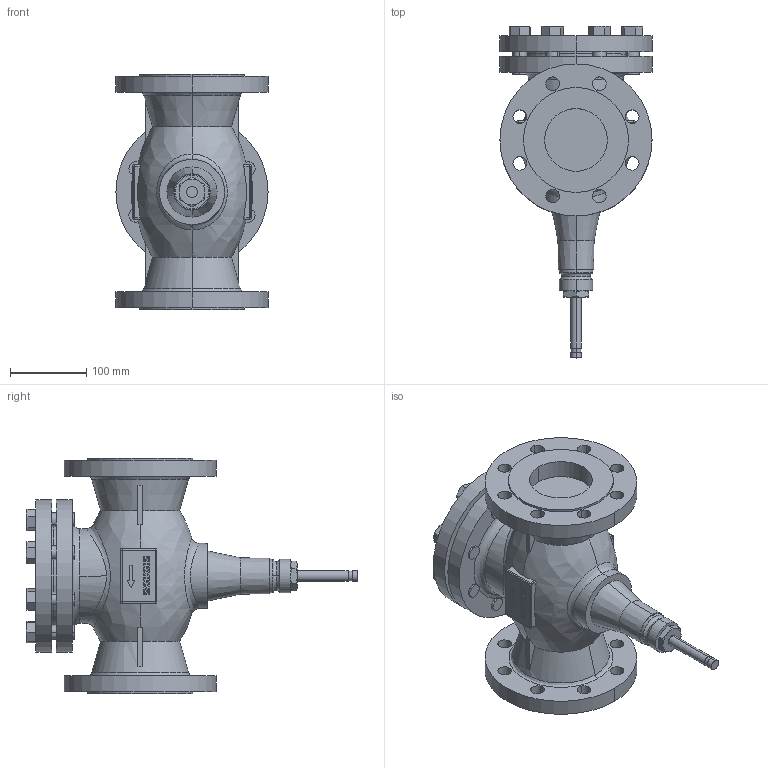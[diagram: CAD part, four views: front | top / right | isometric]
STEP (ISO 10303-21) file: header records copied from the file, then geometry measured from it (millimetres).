
FILE_DESCRIPTION((''),'2;1');
FILE_NAME('000195.stp','2006-09-29T17:20:19',(''),(''),'Mechanical Desktop 2006','Mechanical Desktop 2006',', , ');
FILE_SCHEMA(('AUTOMOTIVE_DESIGN { 1 2 10303 214 0 1 1 1 }'));
Length unit declared in the file: millimetre
Products named in the file (1): Product
Bounding box: 200 x 436.5 x 310 mm (x, y, z)
Volume: 6630570.3 mm3; surface area: 568033.8 mm2
Topology: 42 solids, 42 shells, 685 faces, 1749 edges, 1147 vertices
Faces by surface type: cylinder 296, plane 233, bspline 134, cone 10, sphere 8, torus 4
Entity records: 22797 total; most frequent: CARTESIAN_POINT 6481, ORIENTED_EDGE 3482, DIRECTION 3286, EDGE_CURVE 1741, AXIS2_PLACEMENT_3D 1215, VERTEX_POINT 1147, VECTOR 856, LINE 856
